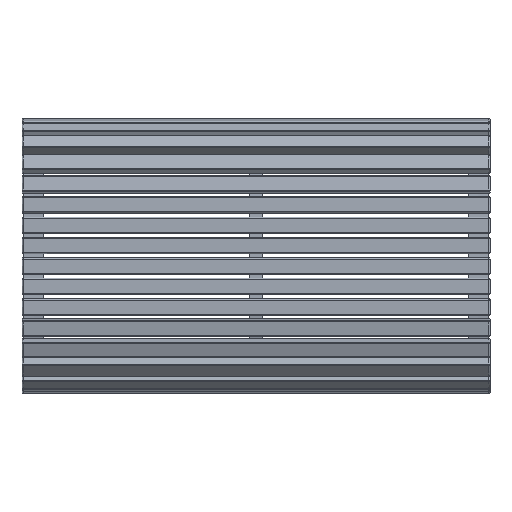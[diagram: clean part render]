
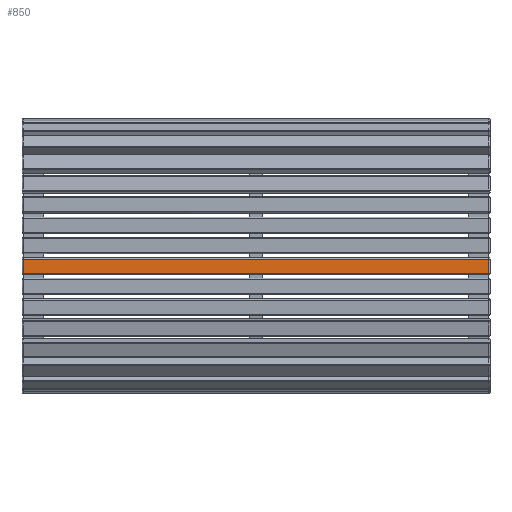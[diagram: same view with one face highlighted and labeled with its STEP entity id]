
A CAD part, top view. The second image highlights one B-rep face of the part: STEP entity #850.
In plain terms, the highlighted planar face has unit normal (0, 0, 1).
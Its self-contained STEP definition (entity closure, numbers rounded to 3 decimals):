
#850=ADVANCED_FACE('',(#1826),#11587,.T.);
#1826=FACE_OUTER_BOUND('',#2750,.T.);
#2750=EDGE_LOOP('',(#4994,#4995,#4996,#4997));
#4994=ORIENTED_EDGE('',*,*,#7504,.F.);
#4995=ORIENTED_EDGE('',*,*,#7488,.F.);
#4996=ORIENTED_EDGE('',*,*,#7505,.F.);
#4997=ORIENTED_EDGE('',*,*,#7497,.F.);
#7488=EDGE_CURVE('',#10499,#10498,#9604,.T.);
#7497=EDGE_CURVE('',#10508,#10509,#9609,.T.);
#7504=EDGE_CURVE('',#10498,#10508,#9614,.T.);
#7505=EDGE_CURVE('',#10509,#10499,#9615,.T.);
#9604=B_SPLINE_CURVE_WITH_KNOTS('',1,(#24042,#24043),.UNSPECIFIED.,.F.,
 .F.,(2,2),(-43.2,14.2),.UNSPECIFIED.);
#9609=B_SPLINE_CURVE_WITH_KNOTS('',1,(#24064,#24065),.UNSPECIFIED.,.F.,
 .F.,(2,2),(-43.2,14.2),.UNSPECIFIED.);
#9614=B_SPLINE_CURVE_WITH_KNOTS('',1,(#24080,#24081),.UNSPECIFIED.,.F.,
 .F.,(2,2),(-2.85,0.75),.UNSPECIFIED.);
#9615=B_SPLINE_CURVE_WITH_KNOTS('',1,(#24082,#24083),.UNSPECIFIED.,.F.,
 .F.,(2,2),(-2.85,0.75),.UNSPECIFIED.);
#10498=VERTEX_POINT('',#24012);
#10499=VERTEX_POINT('',#24013);
#10508=VERTEX_POINT('',#24022);
#10509=VERTEX_POINT('',#24023);
#11587=PLANE('',#11749);
#11749=AXIS2_PLACEMENT_3D('',#23881,#11894,$);
#11894=DIRECTION('',(0.,0.,1.));
#23881=CARTESIAN_POINT('',(1196.996,308.253,429.631));
#24012=CARTESIAN_POINT('',(3.025,308.263,429.631));
#24013=CARTESIAN_POINT('',(1196.975,308.263,429.631));
#24022=CARTESIAN_POINT('',(3.025,344.344,429.63));
#24023=CARTESIAN_POINT('',(1196.975,344.344,429.63));
#24042=CARTESIAN_POINT('',(1196.975,308.263,429.631));
#24043=CARTESIAN_POINT('',(3.025,308.263,429.631));
#24064=CARTESIAN_POINT('',(3.025,344.344,429.63));
#24065=CARTESIAN_POINT('',(1196.975,344.344,429.63));
#24080=CARTESIAN_POINT('',(3.025,308.263,429.631));
#24081=CARTESIAN_POINT('',(3.025,344.344,429.63));
#24082=CARTESIAN_POINT('',(1196.975,344.344,429.63));
#24083=CARTESIAN_POINT('',(1196.975,308.263,429.631));
